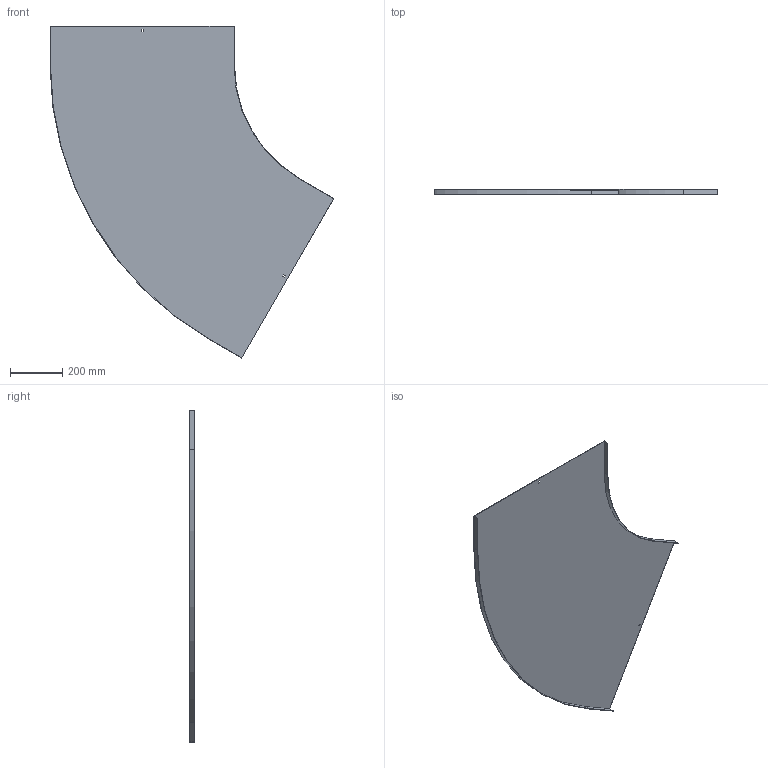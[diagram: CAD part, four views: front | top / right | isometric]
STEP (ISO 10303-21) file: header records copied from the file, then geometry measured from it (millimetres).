
FILE_DESCRIPTION (( 'STEP AP214' ), '1' );
FILE_NAME ('13N5R700.step', '2025-02-21T14:27:22', ( '' ), ( '' ), 'SwSTEP 2.0', 'SolidWorks 2023', '' );
FILE_SCHEMA (( 'AUTOMOTIVE_DESIGN' ));
Length unit declared in the file: millimetre
Products named in the file (1): 13N5R700
Bounding box: 1082.15 x 20 x 1265.53 mm (x, y, z)
Volume: 1320855.4 mm3; surface area: 1767023.9 mm2
Topology: 1 solids, 1 shells, 26 faces, 72 edges, 48 vertices
Faces by surface type: plane 22, cylinder 4
Entity records: 855 total; most frequent: CARTESIAN_POINT 147, ORIENTED_EDGE 144, DIRECTION 134, EDGE_CURVE 72, LINE 64, VECTOR 64, VERTEX_POINT 48, AXIS2_PLACEMENT_3D 35
